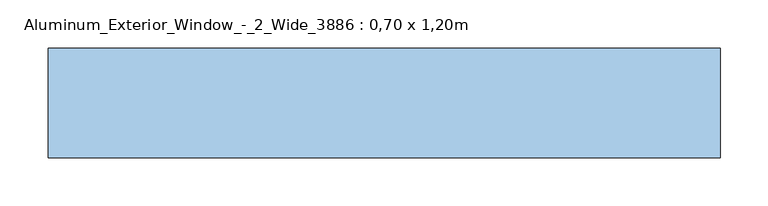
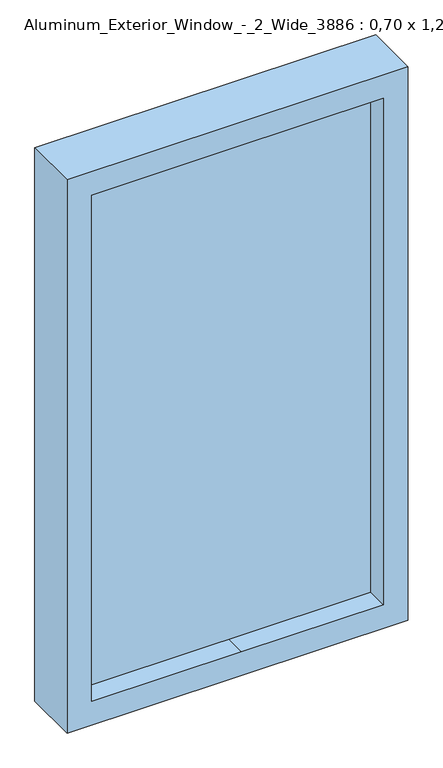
"""IFC4 building model written with IfcOpenShell, lengths in millimetres: window geometry, Aluminum_Exterior_Window_-_2_Wide_3886 : 0,70 x 1,20m."""

from ifc_helpers import new_model, si_unit, frame, origin, place, context, project, spatial, polyline, outline, extrude, source, transform, mapped, element, save


def aluminum_exterior_window_2_wide_3886_0_70_x_1_20m_6c9d0a82(model_context):
    return source(origin(), model_context, "Body", "SweptSolid", [
        extrude(outline(polyline([(2216.0, -1371.6), (1016.0, -1371.6), (1016.0, -671.6), (2216.0, -671.6), (2216.0, -1371.6)]), holes=[polyline([(2165.2, -1047.0), (2165.2, -722.4), (1066.8, -722.4), (1066.8, -1013.8808837), (1066.8, -1320.8), (2165.2, -1320.8), (2165.2, -1047.0)])]), frame((0.0, -38.1424754, 0.0), z_axis=(0.0, 1.0, 0.0), x_axis=(0.0, 0.0, 1.0)), (0.0, 0.0, 1.0), 114.3),
        extrude(outline(polyline([(2165.2, -1047.0), (2165.2, -1320.8), (1066.8, -1320.8), (1066.8, -1020.891469), (1066.8, -722.4), (2165.2, -722.4), (2165.2, -1047.0)])), frame((0.0, 6.3075246, 0.0), z_axis=(0.0, 1.0, 0.0), x_axis=(0.0, 0.0, 1.0)), (0.0, 0.0, 1.0), 25.4),
    ])


if __name__ == "__main__":
    model = new_model("IFC4")
    model_context = context("Model", 3, world=origin())
    ifc_project = project(units=[si_unit("LENGTHUNIT", "METRE", prefix="MILLI")], contexts=[model_context])
    site = spatial("IfcSite", under=ifc_project)
    building = spatial("IfcBuilding", under=site)
    placement = place(None, origin())
    aluminum_exterior_window_2_wide_3886_0_70_x_1_20m_shape = aluminum_exterior_window_2_wide_3886_0_70_x_1_20m_6c9d0a82(model_context)
    element("IfcWindow", 1, ObjectType="Aluminum_Exterior_Window_-_2_Wide_3886 : 0,70 x 1,20m", at=placement, inside=building, context=model_context, shape_type="MappedRepresentation", body=[
        mapped(aluminum_exterior_window_2_wide_3886_0_70_x_1_20m_shape, transform((0.0, 0.0, 0.0), x_axis=(1.0, 0.0, 0.0), y_axis=(0.0, 1.0, 0.0), z_axis=(0.0, 0.0, 1.0))),
    ])
    save(model, "model.ifc")
